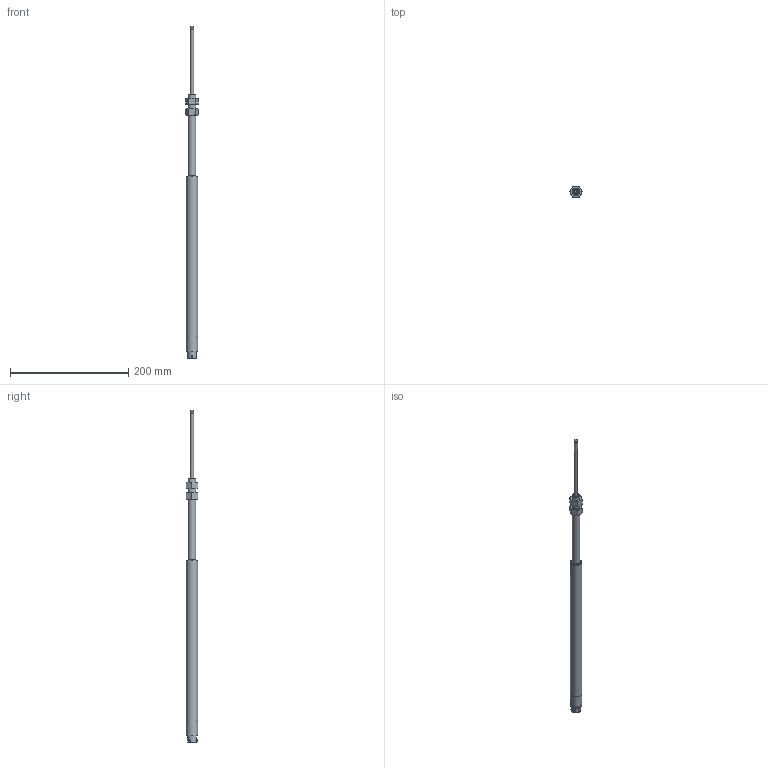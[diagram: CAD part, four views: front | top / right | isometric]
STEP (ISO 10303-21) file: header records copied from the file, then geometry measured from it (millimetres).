
FILE_DESCRIPTION(/* description */ (''),/* implementation_level */ '2;1');
FILE_NAME(/* name */ 'GH-750-I-4000 ASS''Y.iam.stp',/* time_stamp */ '2023-11-10T12:31:52-05:00',/* author */ ('Justin'),/* organization */ (''),/* preprocessor_version */ 'ST-DEVELOPER v20',/* originating_system */ 'Autodesk Inventor 2024',/* authorisation */ '');
FILE_SCHEMA (('AUTOMOTIVE_DESIGN { 1 0 10303 214 3 1 1 }'));
Length unit declared in the file: inch
Products named in the file (4): GH-750-D-2000 ASS'Y; GH-750-D-2000 Housing_SW; GH-750-D-2000 SHAFT_SW; AS 2465 - 1/2  UNF
Assembly tree (4 placements, depth 2):
  GH-750-D-2000 ASS'Y
    GH-750-D-2000 Housing_SW
    GH-750-D-2000 SHAFT_SW
    AS 2465 - 1/2  UNF  x2
Bounding box: 22 x 19.05 x 562.68 mm (x, y, z)
Volume: 48003 mm3; surface area: 51436.1 mm2
Topology: 12 solids, 12 shells, 184 faces, 368 edges, 235 vertices
Faces by surface type: plane 75, cylinder 59, cone 43, torus 4, bspline 2, sphere 1
Full cylindrical faces by diameter (mm): 0.762 x12, 2.032 x3, 2.845 x3, 3.048 x3, 4.826 x2, 5.334 x4, 5.397 x1, 7.671 x2, 7.874 x1, 11.328 x2, 12.7 x1, 13.208 x1, 14.986 x1, 15.748 x2, 16.51 x1, 17.069 x1, 18.034 x1, 18.415 x3, 19.05 x1
Entity records: 4900 total; most frequent: CARTESIAN_POINT 1118, DIRECTION 783, ORIENTED_EDGE 632, AXIS2_PLACEMENT_3D 333, EDGE_CURVE 316, VERTEX_POINT 206, EDGE_LOOP 204, CIRCLE 166
